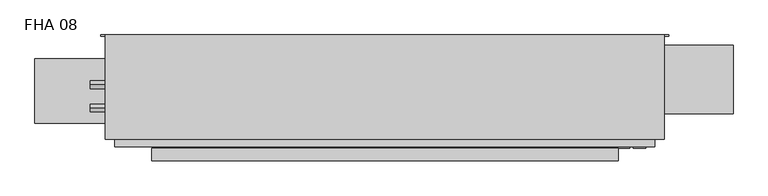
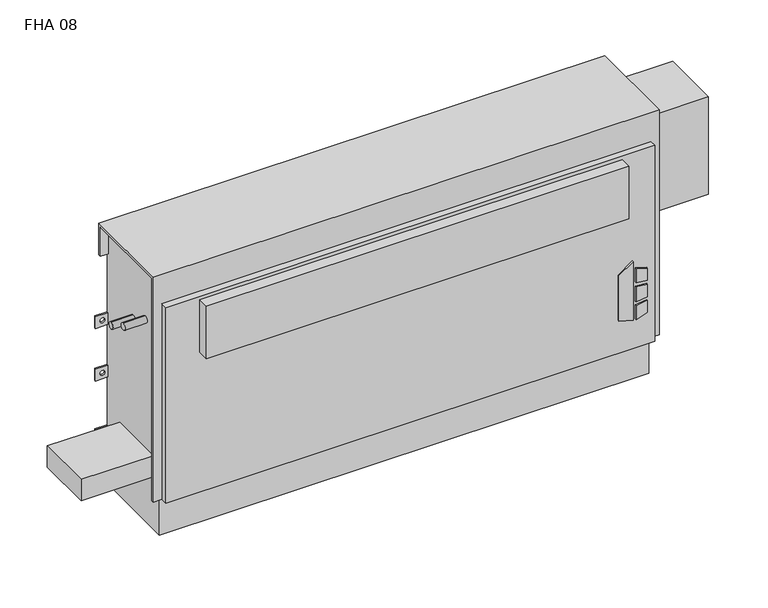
"""IFC4 building model written with IfcOpenShell, lengths in millimetres: proxy geometry, Vertical_Fan_Coil_Unit_-_FHA_-_IEC_-_2-Pipe_FS-FR_LH_2022 : FHA 08."""

from ifc_helpers import new_model, si_unit, point, frame, frame_2d, origin, place, context, project, spatial, polyline, circle_curve, trimmed, segment, composite_curve, outline, extrude, source, transform, mapped, element, save
from ifc_brep_helpers import plane_surface, revolved_surface, advanced_brep


def fha_08_85082c4c(model_context):
    return source(origin(), model_context, "Body", "SolidModel", [
        extrude(outline(polyline([(172.5771459, 627.1368862), (162.6290756, 659.3102728), (304.8, 659.3102728), (281.7779939, 627.1368862), (172.5771459, 627.1368862)])), frame((0.0, 9.525, 0.0), z_axis=(0.0, 1.0, 0.0), x_axis=(0.0, 0.0, 1.0)), (0.0, 0.0, 1.0), 3.175),
        extrude(outline(polyline([(251.5764313, 666.0686058), (248.3740387, 692.15), (277.6028798, 692.15), (285.6672948, 666.0686058), (251.5764313, 666.0686058)])), frame((0.0, 9.525, 0.0), z_axis=(0.0, 1.0, 0.0), x_axis=(0.0, 0.0, 1.0)), (0.0, 0.0, 1.0), 3.175),
        extrude(outline(polyline([(199.7129044, 692.15), (196.0474034, 666.0686058), (162.6290756, 666.0686058), (171.2633128, 692.15), (199.7129044, 692.15)])), frame((0.0, 9.525, 0.0), z_axis=(0.0, 1.0, 0.0), x_axis=(0.0, 0.0, 1.0)), (0.0, 0.0, 1.0), 3.175),
        extrude(outline(polyline([(239.0280658, 692.15), (241.3098921, 666.0686058), (205.3723436, 666.0686058), (208.1136086, 692.15), (239.0280658, 692.15)])), frame((0.0, 9.525, 0.0), z_axis=(0.0, 1.0, 0.0), x_axis=(0.0, 0.0, 1.0)), (0.0, 0.0, 1.0), 3.175),
        extrude(outline(composite_curve([segment(trimmed(circle_curve(frame_2d((-469.9, 128.5875)), 9.525), [point((-479.425, 128.5875))], [point((-460.375, 128.5875))], False, "CARTESIAN"), True, "CONTINUOUS"), segment(trimmed(circle_curve(frame_2d((-469.9, 128.5875)), 9.525), [point((-460.375, 128.5875))], [point((-479.425, 128.5875))], False, "CARTESIAN"), True, "CONTINUOUS")], self_intersect=False)), frame((0.0, 0.0, 101.6), z_axis=(0.0, 0.0, 1.0), x_axis=(1.0, 0.0, 0.0)), (0.0, 0.0, 1.0), 25.4),
        extrude(outline(polyline([(-571.5, 61.9125), (-571.5, 195.2625), (-406.4, 195.2625), (-406.4, 61.9125), (-571.5, 61.9125)])), frame((0.0, 0.0, 127.0), z_axis=(0.0, 0.0, 1.0), x_axis=(1.0, 0.0, 0.0)), (0.0, 0.0, 1.0), 50.8),
        extrude(outline(polyline([(635.0, -15.875), (-330.2, -15.875), (-330.2, 9.525), (635.0, 9.525), (635.0, -15.875)])), frame((0.0, 0.0, 431.8), z_axis=(0.0, 0.0, 1.0), x_axis=(1.0, 0.0, 0.0)), (0.0, 0.0, 1.0), 127.0),
        extrude(outline(composite_curve([segment(trimmed(circle_curve(frame_2d((93.1926, 488.0102)), 7.9375), [point((93.1926, 495.9477))], [point((93.1926, 480.0727))], False, "CARTESIAN"), True, "CONTINUOUS"), segment(trimmed(circle_curve(frame_2d((93.1926, 488.0102)), 7.9375), [point((93.1926, 480.0727))], [point((93.1926, 495.9477))], False, "CARTESIAN"), True, "CONTINUOUS")], self_intersect=False)), frame((-457.2, 0.0, 0.0), z_axis=(1.0, 0.0, 0.0), x_axis=(0.0, 1.0, 0.0)), (0.0, 0.0, 1.0), 50.8),
        extrude(outline(composite_curve([segment(trimmed(circle_curve(frame_2d((141.3002, 461.3402)), 7.9375), [point((141.3002, 469.2777))], [point((141.3002, 453.4027))], False, "CARTESIAN"), True, "CONTINUOUS"), segment(trimmed(circle_curve(frame_2d((141.3002, 461.3402)), 7.9375), [point((141.3002, 453.4027))], [point((141.3002, 469.2777))], False, "CARTESIAN"), True, "CONTINUOUS")], self_intersect=False)), frame((-457.2, 0.0, 0.0), z_axis=(1.0, 0.0, 0.0), x_axis=(0.0, 1.0, 0.0)), (0.0, 0.0, 1.0), 50.8),
        extrude(outline(polyline([(873.125, 223.266), (873.125, 81.534), (711.2, 81.534), (711.2, 223.266), (873.125, 223.266)])), frame((0.0, 0.0, 349.25), z_axis=(0.0, 0.0, 1.0), x_axis=(1.0, 0.0, 0.0)), (0.0, 0.0, 1.0), 234.95),
        advanced_brep(
        [(730.25, 244.475, 635.0), (-425.45, 244.475, 635.0), (-425.45, 28.575, 635.0), (730.25, 28.575, 635.0), (-406.4, 244.475, 0.0), (711.2, 244.475, 0.0), (711.2, 38.1, 0.0), (-406.4, 38.1, 0.0), (730.25, 244.475, 558.8), (711.2, 244.475, 558.8), (711.2, 244.475, 414.3375), (739.775, 244.475, 414.3375), (739.775, 244.475, 385.7625), (711.2, 244.475, 385.7625), (711.2, 244.475, 287.3375), (739.775, 244.475, 287.3375), (739.775, 244.475, 258.7625), (711.2, 244.475, 258.7625), (711.2, 244.475, 141.2875), (739.775, 244.475, 141.2875), (739.775, 244.475, 112.7125), (711.2, 244.475, 112.7125), (-406.4, 244.475, 112.7125), (-434.975, 244.475, 112.7125), (-434.975, 244.475, 141.2875), (-406.4, 244.475, 141.2875), (-406.4, 244.475, 258.7625), (-434.975, 244.475, 258.7625), (-434.975, 244.475, 287.3375), (-406.4, 244.475, 287.3375), (-406.4, 244.475, 385.7625), (-434.975, 244.475, 385.7625), (-434.975, 244.475, 414.3375), (-406.4, 244.475, 414.3375), (-406.4, 244.475, 558.8), (-425.45, 244.475, 558.8), (729.4626, 244.475, 127.0), (718.3374, 244.475, 127.0), (-413.5374, 244.475, 127.0), (-424.6626, 244.475, 127.0), (729.4626, 244.475, 273.05), (718.3374, 244.475, 273.05), (-413.5374, 244.475, 273.05), (-424.6626, 244.475, 273.05), (729.4626, 244.475, 400.05), (718.3374, 244.475, 400.05), (-413.5374, 244.475, 400.05), (-424.6626, 244.475, 400.05), (-425.45, 238.125, 558.8), (-425.45, 238.125, 628.65), (-425.45, 34.925, 628.65), (-425.45, 34.925, 92.075), (-425.45, 28.575, 92.075), (711.2, 12.7, 565.15), (-406.4, 12.7, 565.15), (-406.4, 12.7, 92.075), (711.2, 12.7, 92.075), (730.25, 28.575, 92.075), (730.25, 34.925, 92.075), (730.25, 34.925, 628.65), (730.25, 238.125, 628.65), (730.25, 238.125, 558.8), (-406.4, 28.575, 92.075), (-406.4, 28.575, 565.15), (711.2, 28.575, 565.15), (711.2, 28.575, 92.075), (-406.4, 34.925, 92.075), (-406.4, 38.1, 92.075), (711.2, 38.1, 92.075), (711.2, 34.925, 92.075), (711.2, 241.3, 112.7125), (711.2, 241.3, 141.2875), (711.2, 241.3, 258.7625), (711.2, 241.3, 287.3375), (711.2, 241.3, 385.7625), (711.2, 241.3, 414.3375), (711.2, 238.125, 558.8), (711.2, 238.125, 628.65), (711.2, 34.925, 628.65), (-406.4, 34.925, 628.65), (-406.4, 238.125, 628.65), (-406.4, 238.125, 558.8), (-406.4, 241.3, 414.3375), (-406.4, 241.3, 385.7625), (-406.4, 241.3, 287.3375), (-406.4, 241.3, 258.7625), (-406.4, 241.3, 141.2875), (-406.4, 241.3, 112.7125), (739.775, 241.3, 112.7125), (739.775, 241.3, 141.2875), (718.3374, 241.3, 127.0), (729.4626, 241.3, 127.0), (739.775, 241.3, 258.7625), (739.775, 241.3, 287.3375), (718.3374, 241.3, 273.05), (729.4626, 241.3, 273.05), (739.775, 241.3, 385.7625), (739.775, 241.3, 414.3375), (718.3374, 241.3, 400.05), (729.4626, 241.3, 400.05), (-434.975, 241.3, 141.2875), (-434.975, 241.3, 112.7125), (-424.6626, 241.3, 127.0), (-413.5374, 241.3, 127.0), (-434.975, 241.3, 287.3375), (-434.975, 241.3, 258.7625), (-424.6626, 241.3, 273.05), (-413.5374, 241.3, 273.05), (-434.975, 241.3, 414.3375), (-434.975, 241.3, 385.7625), (-424.6626, 241.3, 400.05), (-413.5374, 241.3, 400.05)],
        [
            (0, 1),
            (1, 2),
            (2, 3),
            (3, 0),
            (4, 5),
            (5, 6),
            (6, 7),
            (7, 4),
            (0, 8),
            (8, 9),
            (9, 10),
            (10, 11),
            (11, 12),
            (12, 13),
            (13, 14),
            (14, 15),
            (15, 16),
            (16, 17),
            (17, 18),
            (18, 19),
            (19, 20),
            (20, 21),
            (21, 5),
            (4, 22),
            (22, 23),
            (23, 24),
            (24, 25),
            (25, 26),
            (26, 27),
            (27, 28),
            (28, 29),
            (29, 30),
            (30, 31),
            (31, 32),
            (32, 33),
            (33, 34),
            (34, 35),
            (35, 1),
            (36, 37, circle_curve(frame((723.9, 244.475, 127.0), z_axis=(0.0, -1.0, 0.0), x_axis=(-1.0, 0.0, 0.0)), 5.5626)),
            (37, 36, circle_curve(frame((723.9, 244.475, 127.0), z_axis=(0.0, -1.0, 0.0), x_axis=(-1.0, 0.0, 0.0)), 5.5626)),
            (38, 39, circle_curve(frame((-419.1, 244.475, 127.0), z_axis=(0.0, -1.0, 0.0), x_axis=(-1.0, 0.0, 0.0)), 5.5626)),
            (39, 38, circle_curve(frame((-419.1, 244.475, 127.0), z_axis=(0.0, -1.0, 0.0), x_axis=(-1.0, 0.0, 0.0)), 5.5626)),
            (40, 41, circle_curve(frame((723.9, 244.475, 273.05), z_axis=(0.0, -1.0, 0.0), x_axis=(-1.0, 0.0, 0.0)), 5.5626)),
            (41, 40, circle_curve(frame((723.9, 244.475, 273.05), z_axis=(0.0, -1.0, 0.0), x_axis=(-1.0, 0.0, 0.0)), 5.5626)),
            (42, 43, circle_curve(frame((-419.1, 244.475, 273.05), z_axis=(0.0, -1.0, 0.0), x_axis=(-1.0, 0.0, 0.0)), 5.5626)),
            (43, 42, circle_curve(frame((-419.1, 244.475, 273.05), z_axis=(0.0, -1.0, 0.0), x_axis=(-1.0, 0.0, 0.0)), 5.5626)),
            (44, 45, circle_curve(frame((723.9, 244.475, 400.05), z_axis=(0.0, -1.0, 0.0), x_axis=(-1.0, 0.0, 0.0)), 5.5626)),
            (45, 44, circle_curve(frame((723.9, 244.475, 400.05), z_axis=(0.0, -1.0, 0.0), x_axis=(-1.0, 0.0, 0.0)), 5.5626)),
            (46, 47, circle_curve(frame((-419.1, 244.475, 400.05), z_axis=(0.0, -1.0, 0.0), x_axis=(-1.0, 0.0, 0.0)), 5.5626)),
            (47, 46, circle_curve(frame((-419.1, 244.475, 400.05), z_axis=(0.0, -1.0, 0.0), x_axis=(-1.0, 0.0, 0.0)), 5.5626)),
            (35, 48),
            (48, 49),
            (49, 50),
            (50, 51),
            (51, 52),
            (52, 2),
            (53, 54),
            (54, 55),
            (55, 56),
            (56, 53),
            (3, 57),
            (57, 58),
            (58, 59),
            (59, 60),
            (60, 61),
            (61, 8),
            (52, 62),
            (62, 63),
            (63, 64),
            (64, 65),
            (65, 57),
            (53, 64),
            (63, 54),
            (55, 62),
            (51, 66),
            (66, 67),
            (67, 68),
            (68, 69),
            (69, 58),
            (65, 56),
            (6, 68),
            (67, 7),
            (21, 70),
            (70, 71),
            (71, 18),
            (17, 72),
            (72, 73),
            (73, 14),
            (13, 74),
            (74, 75),
            (75, 10),
            (9, 76),
            (76, 77),
            (77, 78),
            (78, 69),
            (66, 79),
            (79, 80),
            (80, 81),
            (81, 34),
            (33, 82),
            (82, 83),
            (83, 30),
            (29, 84),
            (84, 85),
            (85, 26),
            (25, 86),
            (86, 87),
            (87, 22),
            (76, 61),
            (60, 77),
            (78, 59),
            (50, 79),
            (81, 48),
            (80, 49),
            (70, 88),
            (88, 89),
            (89, 71),
            (90, 91, circle_curve(frame((723.9, 241.3, 127.0), z_axis=(0.0, 1.0, 0.0), x_axis=(-1.0, 0.0, 0.0)), 5.5626)),
            (91, 90, circle_curve(frame((723.9, 241.3, 127.0), z_axis=(0.0, 1.0, 0.0), x_axis=(-1.0, 0.0, 0.0)), 5.5626)),
            (92, 93),
            (93, 73),
            (72, 92),
            (94, 95, circle_curve(frame((723.9, 241.3, 273.05), z_axis=(0.0, 1.0, 0.0), x_axis=(-1.0, 0.0, 0.0)), 5.5626)),
            (95, 94, circle_curve(frame((723.9, 241.3, 273.05), z_axis=(0.0, 1.0, 0.0), x_axis=(-1.0, 0.0, 0.0)), 5.5626)),
            (96, 97),
            (97, 75),
            (74, 96),
            (98, 99, circle_curve(frame((723.9, 241.3, 400.05), z_axis=(0.0, 1.0, 0.0), x_axis=(-1.0, 0.0, 0.0)), 5.5626)),
            (99, 98, circle_curve(frame((723.9, 241.3, 400.05), z_axis=(0.0, 1.0, 0.0), x_axis=(-1.0, 0.0, 0.0)), 5.5626)),
            (100, 101),
            (101, 87),
            (86, 100),
            (102, 103, circle_curve(frame((-419.1, 241.3, 127.0), z_axis=(0.0, 1.0, 0.0), x_axis=(-1.0, 0.0, 0.0)), 5.5626)),
            (103, 102, circle_curve(frame((-419.1, 241.3, 127.0), z_axis=(0.0, 1.0, 0.0), x_axis=(-1.0, 0.0, 0.0)), 5.5626)),
            (84, 104),
            (104, 105),
            (105, 85),
            (106, 107, circle_curve(frame((-419.1, 241.3, 273.05), z_axis=(0.0, 1.0, 0.0), x_axis=(-1.0, 0.0, 0.0)), 5.5626)),
            (107, 106, circle_curve(frame((-419.1, 241.3, 273.05), z_axis=(0.0, 1.0, 0.0), x_axis=(-1.0, 0.0, 0.0)), 5.5626)),
            (108, 109),
            (109, 83),
            (82, 108),
            (110, 111, circle_curve(frame((-419.1, 241.3, 400.05), z_axis=(0.0, 1.0, 0.0), x_axis=(-1.0, 0.0, 0.0)), 5.5626)),
            (111, 110, circle_curve(frame((-419.1, 241.3, 400.05), z_axis=(0.0, 1.0, 0.0), x_axis=(-1.0, 0.0, 0.0)), 5.5626)),
            (89, 19),
            (88, 20),
            (16, 92),
            (93, 15),
            (12, 96),
            (97, 11),
            (24, 100),
            (101, 23),
            (105, 27),
            (104, 28),
            (32, 108),
            (109, 31),
            (90, 37),
            (36, 91),
            (102, 39),
            (38, 103),
            (94, 41),
            (40, 95),
            (106, 43),
            (42, 107),
            (98, 45),
            (44, 99),
            (110, 47),
            (46, 111),
        ],
        [
            plane_surface(frame((-425.45, 244.475, 635.0), z_axis=(0.0, 0.0, 1.0), x_axis=(-1.0, 0.0, 0.0))),
            plane_surface(frame((-425.45, 244.475, 0.0), z_axis=(0.0, 0.0, -1.0), x_axis=(1.0, 0.0, 0.0))),
            plane_surface(frame((730.25, 244.475, 635.0), z_axis=(0.0, 1.0, 0.0), x_axis=(0.0, 0.0, -1.0))),
            plane_surface(frame((-425.45, 244.475, 635.0), z_axis=(-1.0, 0.0, 0.0), x_axis=(0.0, 0.0, -1.0))),
            plane_surface(frame((-425.45, 12.7, 635.0), z_axis=(0.0, -1.0, 0.0), x_axis=(0.0, 0.0, -1.0))),
            plane_surface(frame((730.25, 12.7, 635.0), z_axis=(1.0, 0.0, 0.0), x_axis=(0.0, 0.0, -1.0))),
            plane_surface(frame((-704.85, 28.575, 635.0), z_axis=(0.0, -1.0, 0.0), x_axis=(1.0, 0.0, 0.0))),
            plane_surface(frame((-704.85, 28.575, 565.15), z_axis=(0.0, 0.0, 1.0), x_axis=(1.0, 0.0, 0.0))),
            plane_surface(frame((-425.45, 12.7, 92.075), z_axis=(0.0, 0.0, -1.0), x_axis=(1.0, 0.0, 0.0))),
            plane_surface(frame((-425.45, 38.1, 92.075), z_axis=(0.0, -1.0, 0.0), x_axis=(1.0, 0.0, 0.0))),
            plane_surface(frame((711.2, 28.575, 92.075), z_axis=(1.0, 0.0, 0.0), x_axis=(0.0, -1.0, 0.0))),
            plane_surface(frame((-406.4, 28.575, 565.15), z_axis=(-1.0, 0.0, 0.0), x_axis=(0.0, -1.0, 0.0))),
            plane_surface(frame((711.2, 244.475, 0.0), z_axis=(1.0, 0.0, 0.0), x_axis=(0.0, -1.0, 0.0))),
            plane_surface(frame((-406.4, 244.475, 92.075), z_axis=(-1.0, 0.0, 0.0), x_axis=(0.0, -1.0, 0.0))),
            plane_surface(frame((711.2, 238.125, 628.65), z_axis=(0.0, -1.0, 0.0), x_axis=(1.0, 0.0, 0.0))),
            plane_surface(frame((711.2, 238.125, 558.8), z_axis=(0.0, 0.0, -1.0), x_axis=(1.0, 0.0, 0.0))),
            plane_surface(frame((711.2, 34.925, 92.075), z_axis=(0.0, 1.0, 0.0), x_axis=(1.0, 0.0, 0.0))),
            plane_surface(frame((711.2, 34.925, 628.65), z_axis=(0.0, 0.0, -1.0), x_axis=(1.0, 0.0, 0.0))),
            plane_surface(frame((-406.4, 34.925, 628.65), z_axis=(0.0, 1.0, 0.0), x_axis=(-1.0, 0.0, 0.0))),
            plane_surface(frame((-406.4, 244.475, 558.8), z_axis=(0.0, 0.0, -1.0), x_axis=(-1.0, 0.0, 0.0))),
            plane_surface(frame((-406.4, 238.125, 558.8), z_axis=(0.0, -1.0, 0.0), x_axis=(-1.0, 0.0, 0.0))),
            plane_surface(frame((-406.4, 238.125, 628.65), z_axis=(0.0, 0.0, -1.0), x_axis=(-1.0, 0.0, 0.0))),
            plane_surface(frame((739.775, 241.3, 141.2875), z_axis=(0.0, -1.0, 0.0), x_axis=(-1.0, 0.0, 0.0))),
            plane_surface(frame((711.2, 244.475, 141.2875), z_axis=(0.0, 0.0, 1.0), x_axis=(0.0, -1.0, 0.0))),
            plane_surface(frame((739.775, 244.475, 141.2875), z_axis=(1.0, 0.0, 0.0), x_axis=(0.0, -1.0, 0.0))),
            plane_surface(frame((739.775, 244.475, 112.7125), z_axis=(0.0, 0.0, -1.0), x_axis=(0.0, -1.0, 0.0))),
            plane_surface(frame((739.775, 244.475, 258.7625), z_axis=(0.0, 0.0, -1.0), x_axis=(0.0, -1.0, 0.0))),
            plane_surface(frame((711.2, 244.475, 287.3375), z_axis=(0.0, 0.0, 1.0), x_axis=(0.0, -1.0, 0.0))),
            plane_surface(frame((739.775, 244.475, 287.3375), z_axis=(1.0, 0.0, 0.0), x_axis=(0.0, -1.0, 0.0))),
            plane_surface(frame((739.775, 244.475, 385.7625), z_axis=(0.0, 0.0, -1.0), x_axis=(0.0, -1.0, 0.0))),
            plane_surface(frame((711.2, 244.475, 414.3375), z_axis=(0.0, 0.0, 1.0), x_axis=(0.0, -1.0, 0.0))),
            plane_surface(frame((739.775, 244.475, 414.3375), z_axis=(1.0, 0.0, 0.0), x_axis=(0.0, -1.0, 0.0))),
            plane_surface(frame((-434.975, 244.475, 141.2875), z_axis=(0.0, 0.0, 1.0), x_axis=(0.0, -1.0, 0.0))),
            plane_surface(frame((-406.4, 244.475, 112.7125), z_axis=(0.0, 0.0, -1.0), x_axis=(0.0, -1.0, 0.0))),
            plane_surface(frame((-434.975, 244.475, 112.7125), z_axis=(-1.0, 0.0, 0.0), x_axis=(0.0, -1.0, 0.0))),
            plane_surface(frame((-406.4, 244.475, 258.7625), z_axis=(0.0, 0.0, -1.0), x_axis=(0.0, -1.0, 0.0))),
            plane_surface(frame((-434.975, 244.475, 258.7625), z_axis=(-1.0, 0.0, 0.0), x_axis=(0.0, -1.0, 0.0))),
            plane_surface(frame((-434.975, 244.475, 287.3375), z_axis=(0.0, 0.0, 1.0), x_axis=(0.0, -1.0, 0.0))),
            plane_surface(frame((-434.975, 244.475, 414.3375), z_axis=(0.0, 0.0, 1.0), x_axis=(0.0, -1.0, 0.0))),
            plane_surface(frame((-406.4, 244.475, 385.7625), z_axis=(0.0, 0.0, -1.0), x_axis=(0.0, -1.0, 0.0))),
            plane_surface(frame((-434.975, 244.475, 385.7625), z_axis=(-1.0, 0.0, 0.0), x_axis=(0.0, -1.0, 0.0))),
            revolved_surface(polyline([(718.3374, 241.3, 127.0), (718.3374, 244.475, 127.0)]), (723.9, 244.475, 127.0), (0.0, -1.0, 0.0)),
            revolved_surface(polyline([(-424.6626, 241.3, 127.0), (-424.6626, 244.475, 127.0)]), (-419.1, 244.475, 127.0), (0.0, -1.0, 0.0)),
            revolved_surface(polyline([(718.3374, 241.3, 273.05), (718.3374, 244.475, 273.05)]), (723.9, 244.475, 273.05), (0.0, -1.0, 0.0)),
            revolved_surface(polyline([(-424.6626, 241.3, 273.05), (-424.6626, 244.475, 273.05)]), (-419.1, 244.475, 273.05), (0.0, -1.0, 0.0)),
            revolved_surface(polyline([(718.3374, 241.3, 400.05), (718.3374, 244.475, 400.05)]), (723.9, 244.475, 400.05), (0.0, -1.0, 0.0)),
            revolved_surface(polyline([(-424.6626, 241.3, 400.05), (-424.6626, 244.475, 400.05)]), (-419.1, 244.475, 400.05), (0.0, -1.0, 0.0)),
        ],
        [
            (0, [[1, 2, 3, 4]]),
            (1, [[5, 6, 7, 8]]),
            (2, [[-1, 9, 10, 11, 12, 13, 14, 15, 16, 17, 18, 19, 20, 21, 22, 23, -5, 24, 25, 26, 27, 28, 29, 30, 31, 32, 33, 34, 35, 36, 37, 38], [39, 40], [41, 42], [43, 44], [45, 46], [47, 48], [49, 50]]),
            (3, [[-2, -38, 51, 52, 53, 54, 55, 56]]),
            (4, [[57, 58, 59, 60]]),
            (5, [[-4, 61, 62, 63, 64, 65, 66, -9]]),
            (6, [[-3, -56, 67, 68, 69, 70, 71, -61]]),
            (7, [[-57, 72, -69, 73]]),
            (8, [[-59, 74, -67, -55, 75, 76, 77, 78, 79, -62, -71, 80]]),
            (9, [[-7, 81, -77, 82]]),
            (10, [[-70, -72, -60, -80]]),
            (11, [[-68, -74, -58, -73]]),
            (12, [[-6, -23, 83, 84, 85, -19, 86, 87, 88, -15, 89, 90, 91, -11, 92, 93, 94, 95, -78, -81]]),
            (13, [[-8, -82, -76, 96, 97, 98, 99, -36, 100, 101, 102, -32, 103, 104, 105, -28, 106, 107, 108, -24]]),
            (14, [[-93, 109, -65, 110]]),
            (15, [[-92, -10, -66, -109]]),
            (16, [[-95, 111, -63, -79]]),
            (17, [[-94, -110, -64, -111]]),
            (18, [[-96, -75, -54, 112]]),
            (19, [[-99, 113, -51, -37]]),
            (20, [[-98, 114, -52, -113]]),
            (21, [[-97, -112, -53, -114]]),
            (22, [[115, 116, 117, -84], [118, 119]]),
            (22, [[120, 121, -87, 122], [123, 124]]),
            (22, [[125, 126, -90, 127], [128, 129]]),
            (22, [[130, 131, -107, 132], [133, 134]]),
            (22, [[135, 136, 137, -104], [138, 139]]),
            (22, [[140, 141, -101, 142], [143, 144]]),
            (23, [[-117, 145, -20, -85]]),
            (24, [[-116, 146, -21, -145]]),
            (25, [[-115, -83, -22, -146]]),
            (26, [[-122, -86, -18, 147]]),
            (27, [[-121, 148, -16, -88]]),
            (28, [[-120, -147, -17, -148]]),
            (29, [[-127, -89, -14, 149]]),
            (30, [[-126, 150, -12, -91]]),
            (31, [[-125, -149, -13, -150]]),
            (32, [[-132, -106, -27, 151]]),
            (33, [[-131, 152, -25, -108]]),
            (34, [[-130, -151, -26, -152]]),
            (35, [[-137, 153, -29, -105]]),
            (36, [[-136, 154, -30, -153]]),
            (37, [[-135, -103, -31, -154]]),
            (38, [[-142, -100, -35, 155]]),
            (39, [[-141, 156, -33, -102]]),
            (40, [[-140, -155, -34, -156]]),
            (41, [[157, -39, 158, -118]]),
            (41, [[-157, -119, -158, -40]]),
            (42, [[159, -41, 160, -133]]),
            (42, [[-159, -134, -160, -42]]),
            (43, [[161, -43, 162, -123]]),
            (43, [[-161, -124, -162, -44]]),
            (44, [[163, -45, 164, -138]]),
            (44, [[-163, -139, -164, -46]]),
            (45, [[165, -47, 166, -128]]),
            (45, [[-165, -129, -166, -48]]),
            (46, [[167, -49, 168, -143]]),
            (46, [[-167, -144, -168, -50]]),
        ],
    ),
    ])


if __name__ == "__main__":
    model = new_model("IFC4")
    model_context = context("Model", 3, world=origin())
    ifc_project = project(units=[si_unit("LENGTHUNIT", "METRE", prefix="MILLI")], contexts=[model_context])
    site = spatial("IfcSite", under=ifc_project)
    building = spatial("IfcBuilding", under=site)
    placement = place(None, origin())
    fha_08_shape = fha_08_85082c4c(model_context)
    element("IfcBuildingElementProxy", 1, Name="Vertical_Fan_Coil_Unit_-_FHA_-_IEC_-_2-Pipe_FS-FR_LH_2022 : FHA 08", ObjectType="Vertical_Fan_Coil_Unit_-_FHA_-_IEC_-_2-Pipe_FS-FR_LH_2022 : FHA 08", at=placement, inside=building, context=model_context, shape_type="MappedRepresentation", body=[
        mapped(fha_08_shape, transform((0.0, 0.0, 0.0), x_axis=(1.0, 0.0, 0.0), y_axis=(0.0, 1.0, 0.0), z_axis=(0.0, 0.0, 1.0))),
    ])
    save(model, "model.ifc")
